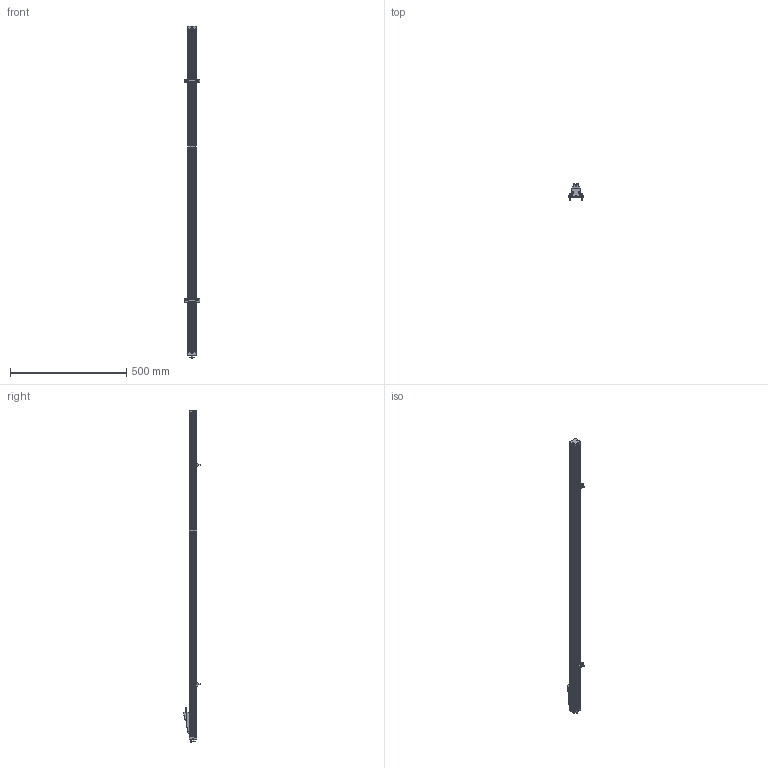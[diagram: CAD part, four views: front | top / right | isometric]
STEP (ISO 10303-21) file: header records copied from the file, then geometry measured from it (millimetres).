
FILE_DESCRIPTION (( 'STEP AP214' ), '1' );
FILE_NAME ('1250.STEP', '2008-11-27T14:58:16', ( 'novotechnik' ), ( 'novotechnik' ), 'SwSTEP 2.0', 'SolidWorks 2008', '' );
FILE_SCHEMA (( 'AUTOMOTIVE_DESIGN' ));
Length unit declared in the file: millimetre
Products named in the file (5): Klammer_Anschlusseite_1250_Standard; Housing_1250_Standard; Gleitschlitten_Standard; 1250; Klammer_Endseite_1250_Standard
Assembly tree (4 placements, depth 2):
  1250
    Klammer_Anschlusseite_1250_Standard
    Housing_1250_Standard
    Klammer_Endseite_1250_Standard
    Gleitschlitten_Standard
Bounding box: 65 x 70.2 x 1430 mm (x, y, z)
Volume: 1591621.3 mm3; surface area: 354628.3 mm2
Topology: 23 solids, 23 shells, 1179 faces, 3152 edges, 2027 vertices
Faces by surface type: plane 572, cylinder 421, bspline 94, cone 56, torus 22, sphere 14
Entity records: 54437 total; most frequent: CARTESIAN_POINT 12049, ORIENTED_EDGE 6256, DIRECTION 5810, EDGE_CURVE 3128, VERTEX_POINT 2027, AXIS2_PLACEMENT_3D 1953, VECTOR 1904, LINE 1904
